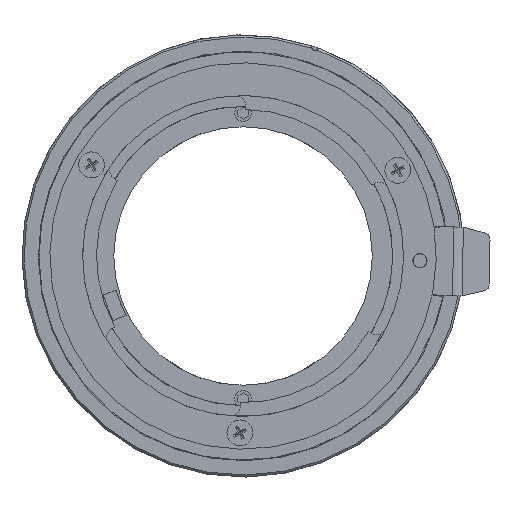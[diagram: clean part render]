
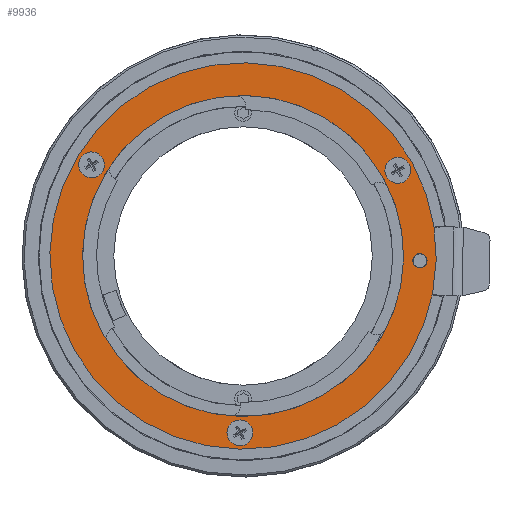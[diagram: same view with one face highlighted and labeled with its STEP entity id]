
A CAD part, left-side view. The second image highlights one B-rep face of the part: STEP entity #9936.
In plain terms, the highlighted planar face has unit normal (-1, 0, 0).
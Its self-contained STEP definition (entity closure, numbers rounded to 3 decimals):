
#110=FACE_BOUND('',#1265,.T.);
#111=FACE_BOUND('',#1266,.T.);
#112=FACE_BOUND('',#1267,.T.);
#113=FACE_BOUND('',#1268,.T.);
#114=FACE_BOUND('',#1269,.T.);
#390=PLANE('',#10573);
#773=FACE_OUTER_BOUND('',#1264,.T.);
#1264=EDGE_LOOP('',(#8667,#8668));
#1265=EDGE_LOOP('',(#8669,#8670));
#1266=EDGE_LOOP('',(#8671));
#1267=EDGE_LOOP('',(#8672));
#1268=EDGE_LOOP('',(#8673));
#1269=EDGE_LOOP('',(#8674,#8675));
#3741=CIRCLE('',#10549,1.05);
#3742=CIRCLE('',#10550,1.05);
#3751=CIRCLE('',#10566,23.6);
#3757=CIRCLE('',#10572,23.6);
#3758=CIRCLE('',#10574,28.4);
#3759=CIRCLE('',#10575,28.4);
#3760=CIRCLE('',#10576,1.5);
#3761=CIRCLE('',#10577,1.5);
#3762=CIRCLE('',#10578,1.5);
#4788=VERTEX_POINT('',#23013);
#4789=VERTEX_POINT('',#23014);
#4803=VERTEX_POINT('',#23056);
#4804=VERTEX_POINT('',#23057);
#4809=VERTEX_POINT('',#23073);
#4810=VERTEX_POINT('',#23074);
#4811=VERTEX_POINT('',#23077);
#4812=VERTEX_POINT('',#23079);
#4813=VERTEX_POINT('',#23081);
#6258=EDGE_CURVE('',#4788,#4789,#3741,.T.);
#6259=EDGE_CURVE('',#4789,#4788,#3742,.T.);
#6279=EDGE_CURVE('',#4803,#4804,#3751,.T.);
#6288=EDGE_CURVE('',#4804,#4803,#3757,.T.);
#6289=EDGE_CURVE('',#4809,#4810,#3758,.T.);
#6290=EDGE_CURVE('',#4810,#4809,#3759,.T.);
#6291=EDGE_CURVE('',#4811,#4811,#3760,.T.);
#6292=EDGE_CURVE('',#4812,#4812,#3761,.T.);
#6293=EDGE_CURVE('',#4813,#4813,#3762,.T.);
#8667=ORIENTED_EDGE('',*,*,#6289,.T.);
#8668=ORIENTED_EDGE('',*,*,#6290,.T.);
#8669=ORIENTED_EDGE('',*,*,#6279,.F.);
#8670=ORIENTED_EDGE('',*,*,#6288,.F.);
#8671=ORIENTED_EDGE('',*,*,#6291,.T.);
#8672=ORIENTED_EDGE('',*,*,#6292,.T.);
#8673=ORIENTED_EDGE('',*,*,#6293,.T.);
#8674=ORIENTED_EDGE('',*,*,#6258,.T.);
#8675=ORIENTED_EDGE('',*,*,#6259,.T.);
#9936=ADVANCED_FACE('',(#773,#110,#111,#112,#113,#114),#390,.T.);
#10549=AXIS2_PLACEMENT_3D('',#23015,#12365,#12366);
#10550=AXIS2_PLACEMENT_3D('',#23016,#12367,#12368);
#10566=AXIS2_PLACEMENT_3D('',#23058,#12410,#12411);
#10572=AXIS2_PLACEMENT_3D('',#23071,#12425,#12426);
#10573=AXIS2_PLACEMENT_3D('',#23072,#12427,#12428);
#10574=AXIS2_PLACEMENT_3D('',#23075,#12429,#12430);
#10575=AXIS2_PLACEMENT_3D('',#23076,#12431,#12432);
#10576=AXIS2_PLACEMENT_3D('',#23078,#12433,#12434);
#10577=AXIS2_PLACEMENT_3D('',#23080,#12435,#12436);
#10578=AXIS2_PLACEMENT_3D('',#23082,#12437,#12438);
#12365=DIRECTION('center_axis',(1.,0.,0.));
#12366=DIRECTION('ref_axis',(0.,-0.484,-0.875));
#12367=DIRECTION('center_axis',(1.,0.,0.));
#12368=DIRECTION('ref_axis',(0.,-0.484,-0.875));
#12410=DIRECTION('center_axis',(-1.,0.,0.));
#12411=DIRECTION('ref_axis',(0.,-0.875,0.484));
#12425=DIRECTION('center_axis',(-1.,0.,0.));
#12426=DIRECTION('ref_axis',(0.,-0.875,0.484));
#12427=DIRECTION('center_axis',(-1.,0.,0.));
#12428=DIRECTION('ref_axis',(0.,-0.484,-0.875));
#12429=DIRECTION('center_axis',(-1.,0.,0.));
#12430=DIRECTION('ref_axis',(0.,-0.875,0.484));
#12431=DIRECTION('center_axis',(-1.,0.,0.));
#12432=DIRECTION('ref_axis',(0.,-0.875,0.484));
#12433=DIRECTION('center_axis',(1.,0.,0.));
#12434=DIRECTION('ref_axis',(0.,-0.484,-0.875));
#12435=DIRECTION('center_axis',(1.,0.,0.));
#12436=DIRECTION('ref_axis',(0.,1.,0.018));
#12437=DIRECTION('center_axis',(1.,0.,0.));
#12438=DIRECTION('ref_axis',(0.,-0.515,0.857));
#23013=CARTESIAN_POINT('',(-26.4,-26.499,-1.613));
#23014=CARTESIAN_POINT('',(-26.4,-25.482,0.224));
#23015=CARTESIAN_POINT('Origin',(-26.4,-25.991,-0.694));
#23016=CARTESIAN_POINT('Origin',(-26.4,-25.991,-0.694));
#23056=CARTESIAN_POINT('',(-26.4,-20.647,11.431));
#23057=CARTESIAN_POINT('',(-26.4,20.647,-11.431));
#23058=CARTESIAN_POINT('Origin',(-26.4,0.,0.));
#23071=CARTESIAN_POINT('Origin',(-26.4,0.,0.));
#23072=CARTESIAN_POINT('Origin',(-26.4,-22.747,12.593));
#23073=CARTESIAN_POINT('',(-26.4,-24.846,13.755));
#23074=CARTESIAN_POINT('',(-26.4,24.846,-13.755));
#23075=CARTESIAN_POINT('Origin',(-26.4,0.,0.));
#23076=CARTESIAN_POINT('Origin',(-26.4,0.,0.));
#23077=CARTESIAN_POINT('',(-26.4,-23.473,11.281));
#23078=CARTESIAN_POINT('Origin',(-26.4,-22.747,12.593));
#23079=CARTESIAN_POINT('',(-26.4,1.967,-25.969));
#23080=CARTESIAN_POINT('Origin',(-26.4,0.468,-25.996));
#23081=CARTESIAN_POINT('',(-26.4,21.506,14.688));
#23082=CARTESIAN_POINT('Origin',(-26.4,22.279,13.403));
